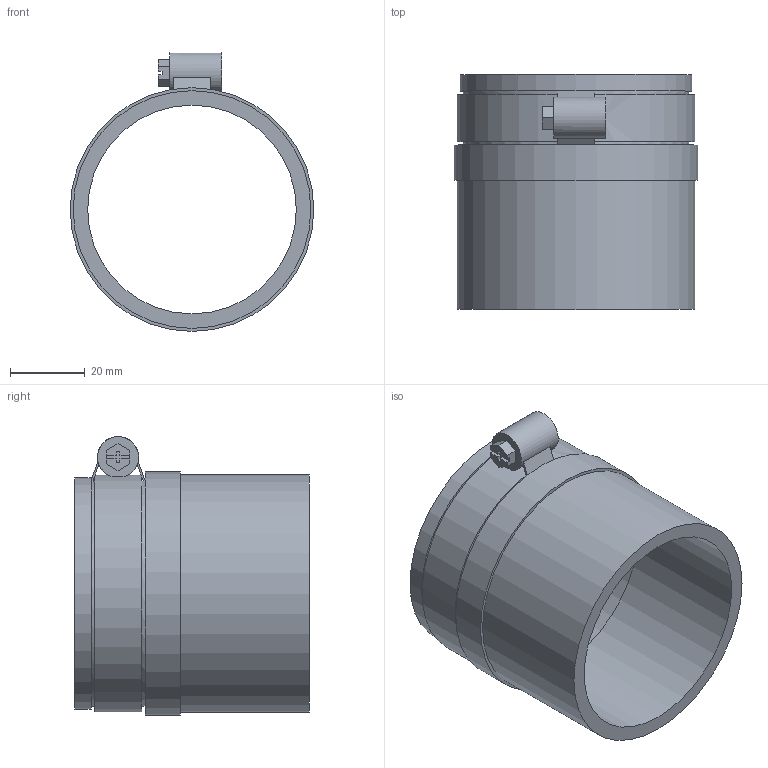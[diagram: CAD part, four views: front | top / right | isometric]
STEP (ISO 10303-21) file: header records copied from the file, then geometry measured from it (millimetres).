
FILE_DESCRIPTION( ( 'STEP AP214' ), '1' );
FILE_NAME( 'C:/Users/ilukic/Documents/ex/gebaudeentwasserung/silent_pp/Geberit SilentPP adapter sleeve to cast iron/390295.stp', '2020-03-26T18:44:40', ( '' ), ( '' ), ' ', 'PARTsolutions', ' ' );
FILE_SCHEMA( ( 'AUTOMOTIVE_DESIGN { 1 0 10303 214 1 1 1 1 }' ) );
Length unit declared in the file: millimetre
Products named in the file (1): _390295
Bounding box: 65.39 x 63 x 74.8 mm (x, y, z)
Volume: 43038.8 mm3; surface area: 27407.1 mm2
Topology: 1 solids, 1 shells, 52 faces, 145 edges, 96 vertices
Faces by surface type: plane 43, cylinder 9
Full cylindrical faces by diameter (mm): 11.025 x1, 56 x1, 58 x1, 60.61 x2, 62.205 x1, 63.8 x2, 65.395 x1
Entity records: 2051 total; most frequent: CARTESIAN_POINT 323, DIRECTION 261, ORIENTED_EDGE 256, EDGE_CURVE 128, LINE 99, VECTOR 99, VERTEX_POINT 89, AXIS2_PLACEMENT_3D 81
